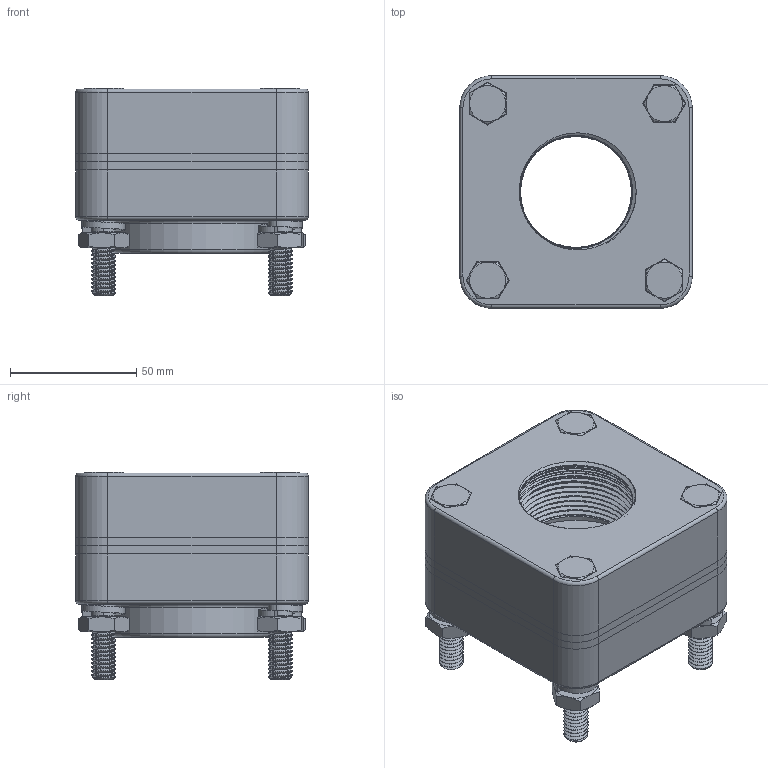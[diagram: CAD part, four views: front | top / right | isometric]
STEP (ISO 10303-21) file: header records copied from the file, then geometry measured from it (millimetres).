
FILE_DESCRIPTION(/* description */ ('Alibre Inc.'),/* implementation_level */ '2;1');
FILE_NAME(/* name */ 'export0',/* time_stamp */ '2017-09-08T12:35:27-04:00',/* author */ (''),/* organization */ (''),/* preprocessor_version */ 'ST-DEVELOPER v14',/* originating_system */ 'Alibre',/* authorisation */ '');
FILE_SCHEMA (('CONFIG_CONTROL_DESIGN'));
Length unit declared in the file: inch
Products named in the file (7): ID_1; ID_2; ID_3; ID_4
Bounding box: 91.95 x 91.95 x 82.15 mm (x, y, z)
Volume: 369843.2 mm3; surface area: 109302.4 mm2
Topology: 16 solids, 16 shells, 630 faces, 1643 edges, 1054 vertices
Faces by surface type: cylinder 227, cone 226, plane 131, bspline 36, torus 10
Full cylindrical faces by diameter (mm): 7.62 x8, 10.49 x8, 57.15 x2, 64.516 x1
Entity records: 100723 total; most frequent: CARTESIAN_POINT 92909, ORIENTED_EDGE 1602, DIRECTION 1144, EDGE_CURVE 801, VERTEX_POINT 529, AXIS2_PLACEMENT_3D 466, EDGE_LOOP 360, FACE_BOUND 360
